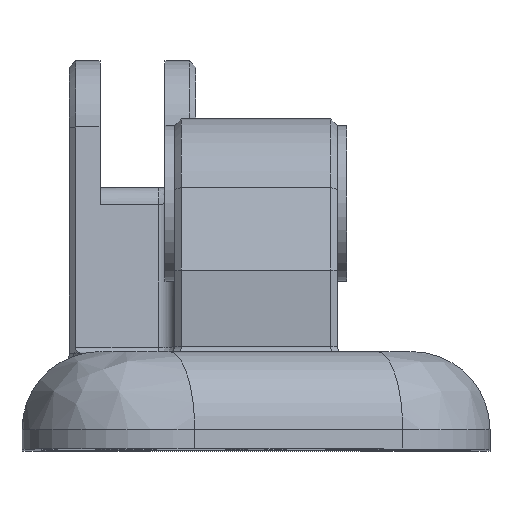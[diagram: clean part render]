
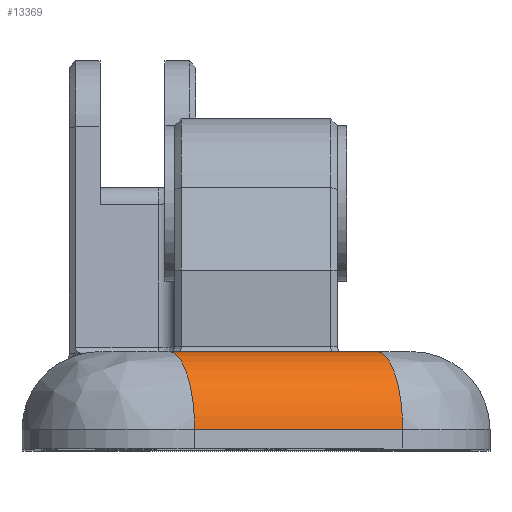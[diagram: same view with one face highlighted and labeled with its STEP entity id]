
A CAD part, top view. The second image highlights one B-rep face of the part: STEP entity #13369.
In plain terms, the highlighted cylindrical face has radius 12 mm (diameter 24 mm), a partial arc.
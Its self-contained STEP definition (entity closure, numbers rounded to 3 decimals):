
#617=DIRECTION('',(0.945,0.,-0.328));
#618=VECTOR('',#617,33.874);
#619=CARTESIAN_POINT('',(109.624,-761.,107.251));
#620=LINE('',#619,#618);
#5224=CARTESIAN_POINT('',(141.624,-773.,96.14));
#5225=DIRECTION('',(0.945,0.,-0.328));
#5226=DIRECTION('',(0.,1.,0.));
#5227=AXIS2_PLACEMENT_3D('',#5224,#5225,#5226);
#5239=DIRECTION('',(0.945,0.,-0.328));
#5240=VECTOR('',#5239,33.874);
#5241=CARTESIAN_POINT('',(113.56,-773.,118.587));
#5242=LINE('',#5241,#5240);
#5248=CARTESIAN_POINT('',(109.624,-773.,107.251));
#5249=DIRECTION('',(-0.945,0.,0.328));
#5250=DIRECTION('',(0.328,0.,0.945));
#5251=AXIS2_PLACEMENT_3D('',#5248,#5249,#5250);
#5326=CARTESIAN_POINT('',(109.624,-761.,107.251));
#5327=VERTEX_POINT('',#5326);
#5328=CARTESIAN_POINT('',(141.624,-761.,96.14));
#5329=VERTEX_POINT('',#5328);
#6091=CARTESIAN_POINT('',(145.56,-773.,107.476));
#6092=VERTEX_POINT('',#6091);
#6093=CARTESIAN_POINT('',(113.56,-773.,118.587));
#6094=VERTEX_POINT('',#6093);
#13357=CARTESIAN_POINT('',(119.064,-773.,103.973));
#13358=DIRECTION('',(-0.945,0.,0.328));
#13359=DIRECTION('',(0.328,0.,0.945));
#13360=AXIS2_PLACEMENT_3D('',#13357,#13358,#13359);
#13361=CYLINDRICAL_SURFACE('',#13360,12.);
#13362=ORIENTED_EDGE('',*,*,#13349,.T.);
#13363=ORIENTED_EDGE('',*,*,#8382,.F.);
#13365=ORIENTED_EDGE('',*,*,#13364,.T.);
#13366=ORIENTED_EDGE('',*,*,#7405,.T.);
#13367=EDGE_LOOP('',(#13362,#13363,#13365,#13366));
#13368=FACE_OUTER_BOUND('',#13367,.F.);
#13369=ADVANCED_FACE('',(#13368),#13361,.T.);
#5228=CIRCLE('',#5227,12.);
#5252=CIRCLE('',#5251,12.);
#7405=EDGE_CURVE('',#5327,#5329,#620,.T.);
#8382=EDGE_CURVE('',#6094,#6092,#5242,.T.);
#13349=EDGE_CURVE('',#5329,#6092,#5228,.T.);
#13364=EDGE_CURVE('',#6094,#5327,#5252,.T.);
